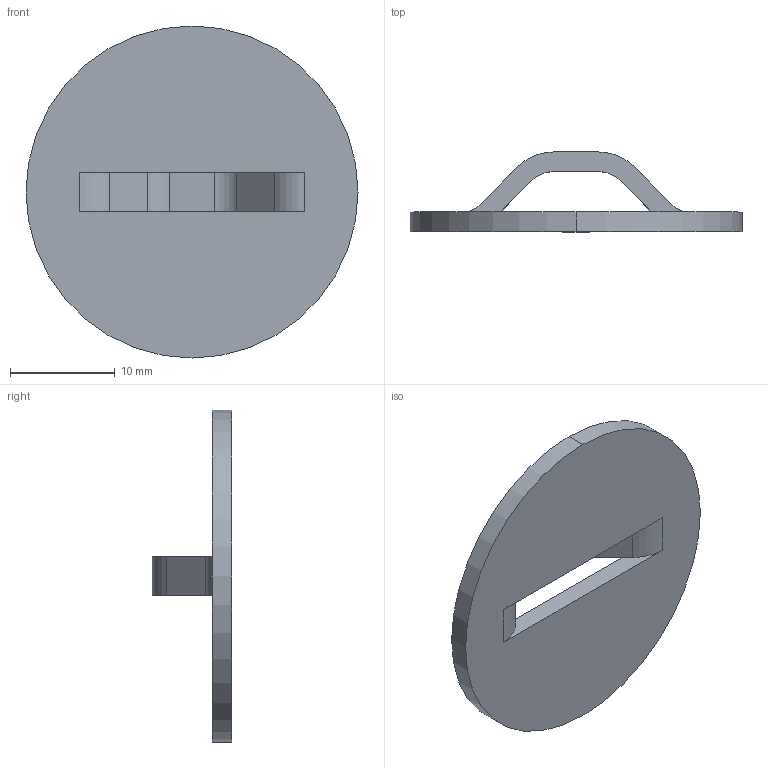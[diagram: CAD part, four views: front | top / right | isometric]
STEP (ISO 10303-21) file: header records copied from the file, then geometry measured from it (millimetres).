
FILE_DESCRIPTION (( 'STEP AP203' ), '1' );
FILE_NAME ('1856266-10 FU BRIDGE LANCE .150W X .851L X .226H X .074 THK.STEP', '2024-11-18T17:16:21', ( '' ), ( '' ), 'SwSTEP 2.0', 'SolidWorks 2024', '' );
FILE_SCHEMA (( 'CONFIG_CONTROL_DESIGN' ));
Length unit declared in the file: inch
Products named in the file (1): 1856266-10 FU BRIDGE LANCE .150W X .851L X .226H X .074 THK
Bounding box: 31.75 x 7.62 x 31.75 mm (x, y, z)
Volume: 1517.9 mm3; surface area: 1944 mm2
Topology: 1 solids, 1 shells, 22 faces, 62 edges, 40 vertices
Faces by surface type: plane 12, cylinder 10
Entity records: 801 total; most frequent: DIRECTION 128, CARTESIAN_POINT 125, ORIENTED_EDGE 124, EDGE_CURVE 62, AXIS2_PLACEMENT_3D 43, VECTOR 42, LINE 42, VERTEX_POINT 40
